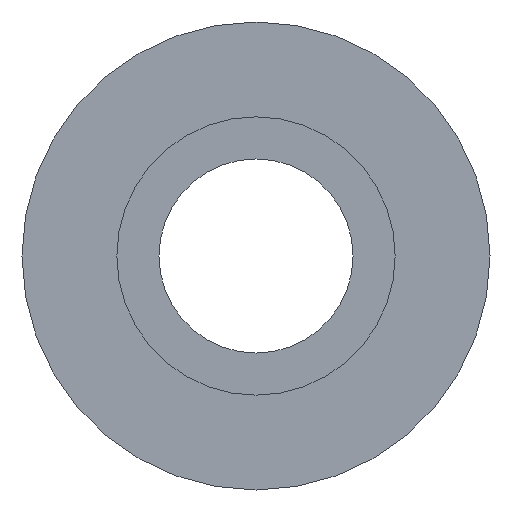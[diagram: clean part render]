
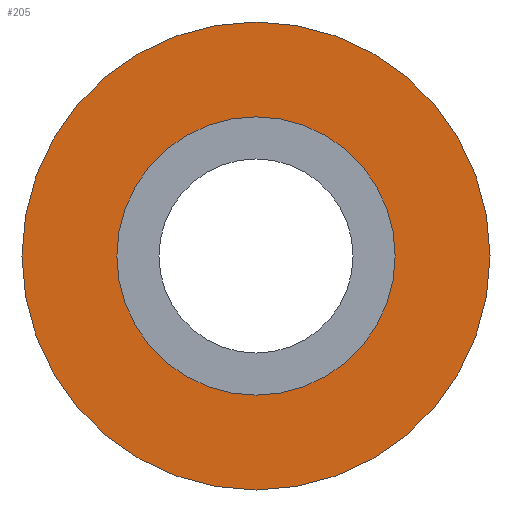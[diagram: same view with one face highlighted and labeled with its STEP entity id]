
A CAD part, left-side view. The second image highlights one B-rep face of the part: STEP entity #205.
In plain terms, the highlighted planar face has unit normal (-1, 0, 0).
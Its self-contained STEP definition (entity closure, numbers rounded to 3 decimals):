
#17=PLANE($,#242);
#36=FACE_BOUND($,#85,.T.);
#56=FACE_OUTER_BOUND($,#84,.T.);
#84=EDGE_LOOP($,(#174));
#85=EDGE_LOOP($,(#175));
#110=CIRCLE($,#240,1.42);
#112=CIRCLE($,#243,2.388);
#128=VERTEX_POINT($,#365);
#130=VERTEX_POINT($,#370);
#146=EDGE_CURVE($,#128,#128,#110,.T.);
#148=EDGE_CURVE($,#130,#130,#112,.T.);
#174=ORIENTED_EDGE($,*,*,#148,.F.);
#175=ORIENTED_EDGE($,*,*,#146,.T.);
#205=ADVANCED_FACE($,(#56,#36),#17,.T.);
#240=AXIS2_PLACEMENT_3D($,#366,#304,#305);
#242=AXIS2_PLACEMENT_3D($,#369,#308,#309);
#243=AXIS2_PLACEMENT_3D($,#371,#310,#311);
#304=DIRECTION('center_axis',(1.,0.,0.));
#305=DIRECTION('ref_axis',(0.,1.,0.));
#308=DIRECTION('center_axis',(-1.,0.,0.));
#309=DIRECTION('ref_axis',(0.,0.,1.));
#310=DIRECTION('center_axis',(1.,0.,0.));
#311=DIRECTION('ref_axis',(0.,1.,0.));
#365=CARTESIAN_POINT('',(2.769,1.42,0.));
#366=CARTESIAN_POINT('Origin',(2.769,0.,0.));
#369=CARTESIAN_POINT('Origin',(2.769,1.904,0.));
#370=CARTESIAN_POINT('',(2.769,2.388,0.));
#371=CARTESIAN_POINT('Origin',(2.769,0.,0.));
